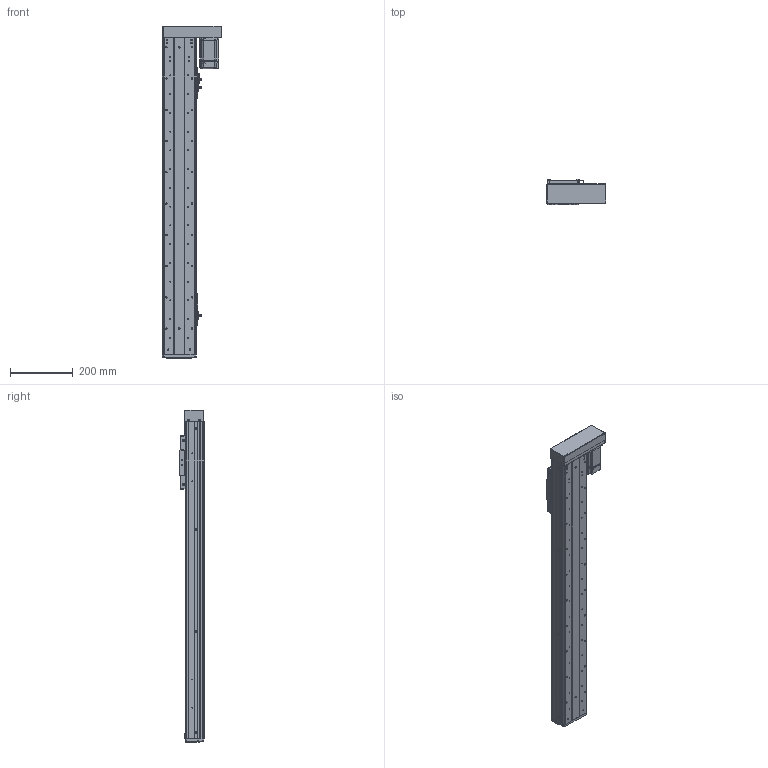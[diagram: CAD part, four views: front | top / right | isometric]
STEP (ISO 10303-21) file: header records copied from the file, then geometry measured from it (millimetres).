
FILE_DESCRIPTION (( 'STEP AP203' ), '1' );
FILE_NAME ('RY100FS-L1620-300-RK(15双轨).SLDASM_750.step', '2021-03-02T07:46:24', ( '盈信电脑' ), ( '东莞市道滘镇水果街19号' ), 'SwSTEP 2.0', 'SolidWorks 2012', '' );
FILE_SCHEMA (( 'CONFIG_CONTROL_DESIGN' ));
Length unit declared in the file: millimetre
Products named in the file (21): RY100FS-L1620-300-RK(15邧寢).SLDASM_750; RY100FS-15邧寢蛌殏萇儂欶; RY100FS-15邧寢蛌殏萇儂啣; 蚥薯蝶紫輸; 1; RY100F-詩湍揤踡輸; 滅袉蝶14-35; RY100FS-15邧寢蛌殏萇儂釱; RY100FS-双轨螺母座(16丝杆）; 672嫖萇羲壽假蚾釱; 覜茼ん672; RY80俋离覜茼え; RY100F-綴裔啣; RY100F-詩湍幗謫粣; 棠沺沭; RY100F-詩湍揤踡謫; RY100FS-双轨铝滑块(上板）; RY100F-滅鳥裔啣; RY100FS-300-RK15邧寢祥凄詩湍_750; RY100FS-300-RK15絳寢倰第奻裔啣_750; RY100FS-300-RK15絳寢倰第菁釱_750
Assembly tree (29 placements, depth 2):
  RY100FS-L1620-300-RK(15邧寢).SLDASM_750
    RY100FS-300-RK15絳寢倰第菁釱_750
    RY100FS-300-RK15絳寢倰第奻裔啣_750  x2
    RY100FS-300-RK15邧寢祥凄詩湍_750
    RY100FS-双轨铝滑块(上板）
    RY100F-滅鳥裔啣
    棠沺沭  x2
    RY100F-詩湍幗謫粣
    RY100F-詩湍揤踡謫  x2
    RY100F-綴裔啣
    672嫖萇羲壽假蚾釱  x2
    RY80俋离覜茼え  x2
    覜茼ん672  x3
    RY100F-詩湍揤踡輸  x2
    RY100FS-双轨螺母座(16丝杆）
    RY100FS-15邧寢蛌殏萇儂釱
    滅袉蝶14-35
    1
    RY100FS-15邧寢蛌殏萇儂啣
    RY100FS-15邧寢蛌殏萇儂欶
    蚥薯蝶紫輸  x2
Bounding box: 189.5 x 78.5 x 1062 mm (x, y, z)
Volume: 2548546.4 mm3; surface area: 1089246.2 mm2
Topology: 29 solids, 29 shells, 2265 faces, 6154 edges, 3973 vertices
Faces by surface type: cylinder 1035, plane 1029, cone 168, bspline 33
Entity records: 65135 total; most frequent: CARTESIAN_POINT 13808, DIRECTION 10229, ORIENTED_EDGE 10112, EDGE_CURVE 5056, AXIS2_PLACEMENT_3D 3622, VERTEX_POINT 3321, LINE 2985, VECTOR 2985
